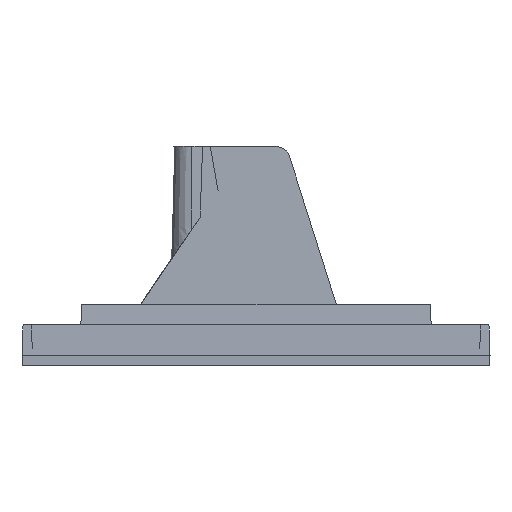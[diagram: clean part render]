
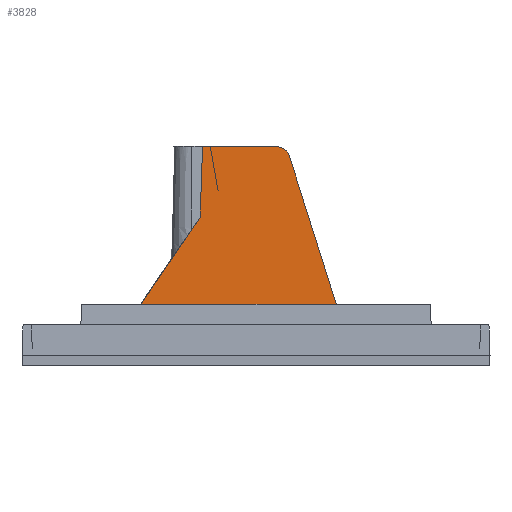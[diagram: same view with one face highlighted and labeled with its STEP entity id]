
A CAD part, left-side view. The second image highlights one B-rep face of the part: STEP entity #3828.
In plain terms, the highlighted planar face has unit normal (-1, 0, 0.026).
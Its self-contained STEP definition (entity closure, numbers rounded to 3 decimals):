
#33 = ORIENTED_EDGE ( 'NONE', *, *, #1012, .T. ) ;
#205 = DIRECTION ( 'NONE',  ( 0.022, -0.563, 0.826 ) ) ;
#267 = CARTESIAN_POINT ( 'NONE',  ( -219.808, 29.041, 2.602 ) ) ;
#386 = VECTOR ( 'NONE', #602, 1000. ) ;
#397 = VECTOR ( 'NONE', #2357, 1000. ) ;
#458 = VERTEX_POINT ( 'NONE', #2731 ) ;
#602 = DIRECTION ( 'NONE',  ( 0.025, 0.302, 0.953 ) ) ;
#657 = ORIENTED_EDGE ( 'NONE', *, *, #1919, .F. ) ;
#700 = EDGE_LOOP ( 'NONE', ( #3016, #3564, #3278, #33, #3795, #657 ) ) ;
#709 = VERTEX_POINT ( 'NONE', #1142 ) ;
#969 = CARTESIAN_POINT ( 'NONE',  ( -218.805, -6.593, 40.907 ) ) ;
#985 = CARTESIAN_POINT ( 'NONE',  ( -218.746, 10.457, 43.148 ) ) ;
#1012 = EDGE_CURVE ( 'NONE', #1365, #709, #1258, .T. ) ;
#1018 = EDGE_CURVE ( 'NONE', #2449, #458, #2987, .T. ) ;
#1142 = CARTESIAN_POINT ( 'NONE',  ( -219.824, -18.93, 2. ) ) ;
#1154 = CARTESIAN_POINT ( 'NONE',  ( -218.75, 10.462, 43. ) ) ;
#1162 = VERTEX_POINT ( 'NONE', #2103 ) ;
#1172 = FACE_OUTER_BOUND ( 'NONE', #700, .T. ) ;
#1258 = LINE ( 'NONE', #3246, #397 ) ;
#1332 = DIRECTION ( 'NONE',  ( -0.026, 0., -1. ) ) ;
#1365 = VERTEX_POINT ( 'NONE', #1915 ) ;
#1546 = LINE ( 'NONE', #3359, #386 ) ;
#1635 = PLANE ( 'NONE',  #3103 ) ;
#1732 = CARTESIAN_POINT ( 'NONE',  ( -218.75, -6., 43. ) ) ;
#1915 = CARTESIAN_POINT ( 'NONE',  ( -219.824, 29.451, 2. ) ) ;
#1919 = EDGE_CURVE ( 'NONE', #458, #1162, #2506, .T. ) ;
#1963 = VECTOR ( 'NONE', #205, 1000. ) ;
#2103 = CARTESIAN_POINT ( 'NONE',  ( -218.805, -6.593, 40.907 ) ) ;
#2133 = EDGE_CURVE ( 'NONE', #2449, #2739, #3321, .T. ) ;
#2208 = EDGE_CURVE ( 'NONE', #709, #1162, #1546, .T. ) ;
#2211 = CARTESIAN_POINT ( 'NONE',  ( -218.771, -6.184, 42.199 ) ) ;
#2219 = VECTOR ( 'NONE', #3145, 1000. ) ;
#2357 = DIRECTION ( 'NONE',  ( 0., -1., 0. ) ) ;
#2449 = VERTEX_POINT ( 'NONE', #1154 ) ;
#2470 = CARTESIAN_POINT ( 'NONE',  ( -218.75, -3.734, 43. ) ) ;
#2506 =( BOUNDED_CURVE ( )  B_SPLINE_CURVE ( 3, ( #2470, #2789, #2211, #969 ),
 .UNSPECIFIED., .F., .T. ) 
 B_SPLINE_CURVE_WITH_KNOTS ( ( 4, 4 ),
 ( 3.142, 4.405 ),
 .UNSPECIFIED. ) 
 CURVE ( )  GEOMETRIC_REPRESENTATION_ITEM ( )  RATIONAL_B_SPLINE_CURVE ( ( 1., 0.871, 0.871, 1. ) ) 
 REPRESENTATION_ITEM ( '' )  );
#2731 = CARTESIAN_POINT ( 'NONE',  ( -218.75, -3.734, 43. ) ) ;
#2739 = VERTEX_POINT ( 'NONE', #3966 ) ;
#2789 = CARTESIAN_POINT ( 'NONE',  ( -218.75, -5.09, 43. ) ) ;
#2919 = EDGE_CURVE ( 'NONE', #1365, #2739, #3017, .T. ) ;
#2987 = LINE ( 'NONE', #1732, #3579 ) ;
#3016 = ORIENTED_EDGE ( 'NONE', *, *, #1018, .F. ) ;
#3017 = LINE ( 'NONE', #267, #1963 ) ;
#3103 = AXIS2_PLACEMENT_3D ( 'NONE', #3796, #3183, #1332 ) ;
#3145 = DIRECTION ( 'NONE',  ( -0.026, 0.035, -0.999 ) ) ;
#3183 = DIRECTION ( 'NONE',  ( -1., 0., 0.026 ) ) ;
#3246 = CARTESIAN_POINT ( 'NONE',  ( -219.824, 0., 2. ) ) ;
#3278 = ORIENTED_EDGE ( 'NONE', *, *, #2919, .F. ) ;
#3321 = LINE ( 'NONE', #985, #2219 ) ;
#3359 = CARTESIAN_POINT ( 'NONE',  ( -218.658, -4.82, 46.5 ) ) ;
#3564 = ORIENTED_EDGE ( 'NONE', *, *, #2133, .T. ) ;
#3579 = VECTOR ( 'NONE', #3611, 1000. ) ;
#3611 = DIRECTION ( 'NONE',  ( 0., -1., 0. ) ) ;
#3795 = ORIENTED_EDGE ( 'NONE', *, *, #2208, .T. ) ;
#3796 = CARTESIAN_POINT ( 'NONE',  ( -218.75, 6.228, 43. ) ) ;
#3828 = ADVANCED_FACE ( 'NONE', ( #1172 ), #1635, .T. ) ;
#3966 = CARTESIAN_POINT ( 'NONE',  ( -219.113, 10.946, 29.125 ) ) ;
